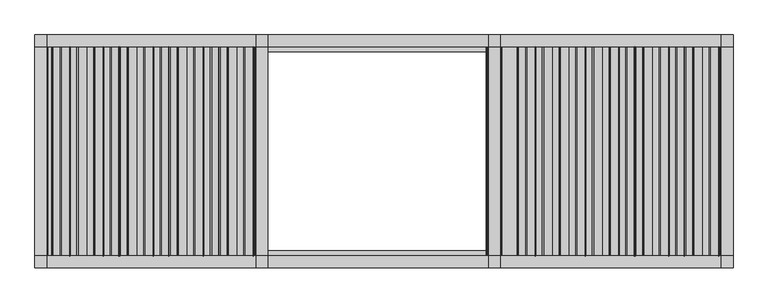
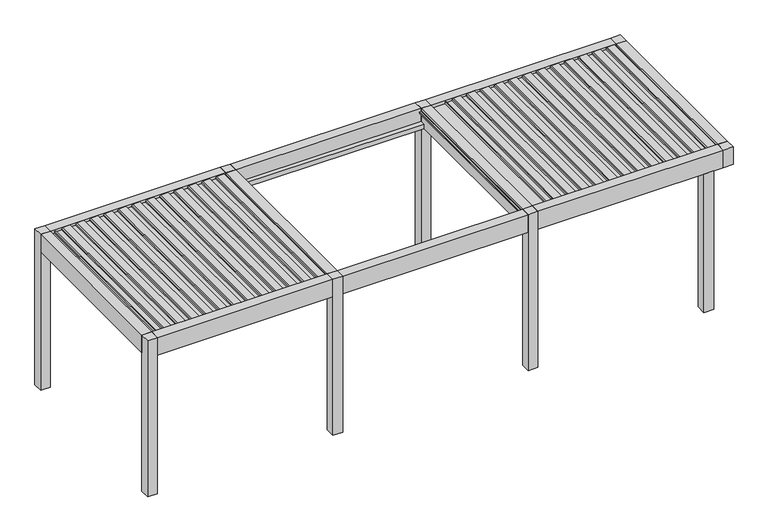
"""IFC4 building model written with IfcOpenShell, lengths in millimetres: proxy geometry, Renson_Amani_Patio_Cover : Renson_Amani_Patio_Cover."""

from ifc_helpers import new_model, si_unit, point, frame, frame_2d, origin, origin_with_axes, place, context, project, spatial, polyline, circle_curve, trimmed, segment, composite_curve, outline, extrude, source, transform, mapped, element, save


def generic_models_a3af7587(model_context):
    return source(origin(), model_context, "Body", "SweptSolid", [
        extrude(outline(composite_curve([segment(polyline([(2483.35, 7073.7289238), (2511.01198, 7076.1490335), (2512.3970364, 7104.984284), (2531.8911096, 7101.5469529), (2526.6075693, 6991.549838)]), True, "CONTINUOUS"), segment(trimmed(circle_curve(frame_2d((2511.6248435, 6992.26951)), 15.0), [point((2526.6075693, 6991.549838))], [point((2514.2295662, 6977.4973937))], False, "CARTESIAN"), True, "CONTINUOUS"), segment(polyline([(2514.2295662, 6977.4973937), (2495.0, 6974.1067023), (2495.0, 6886.3709263), (2512.0788237, 6883.3594689), (2511.3450182, 6868.0824984), (2483.35, 6865.6332517), (2483.35, 7073.7289238)]), True, "CONTINUOUS")], self_intersect=False)), frame((0.0, -1350.0, 0.0), z_axis=(0.0, 1.0, 0.0), x_axis=(0.0, 0.0, 1.0)), (0.0, 0.0, 1.0), 2700.0),
        extrude(outline(composite_curve([segment(polyline([(2483.35, 6858.7132078), (2511.01198, 6861.1333174), (2512.3970364, 6889.9685679), (2531.8911096, 6886.5312368), (2526.6075693, 6776.534122)]), True, "CONTINUOUS"), segment(trimmed(circle_curve(frame_2d((2511.6248435, 6777.2537939)), 15.0), [point((2526.6075693, 6776.534122))], [point((2514.2295662, 6762.4816776))], False, "CARTESIAN"), True, "CONTINUOUS"), segment(polyline([(2514.2295662, 6762.4816776), (2495.0, 6759.0909863), (2495.0, 6671.3552102), (2512.0788237, 6668.3437528), (2511.3450182, 6653.0667824), (2483.35, 6650.6175356), (2483.35, 6858.7132078)]), True, "CONTINUOUS")], self_intersect=False)), frame((0.0, -1350.0, 0.0), z_axis=(0.0, 1.0, 0.0), x_axis=(0.0, 0.0, 1.0)), (0.0, 0.0, 1.0), 2700.0),
        extrude(outline(composite_curve([segment(polyline([(2483.35, 6643.6974917), (2511.01198, 6646.1176014), (2512.3970364, 6674.9528519), (2531.8911096, 6671.5155208), (2526.6075693, 6561.5184059)]), True, "CONTINUOUS"), segment(trimmed(circle_curve(frame_2d((2511.6248435, 6562.2380779)), 15.0), [point((2526.6075693, 6561.5184059))], [point((2514.2295662, 6547.4659616))], False, "CARTESIAN"), True, "CONTINUOUS"), segment(polyline([(2514.2295662, 6547.4659616), (2495.0, 6544.0752702), (2495.0, 6456.3394942), (2512.0788237, 6453.3280368), (2511.3450182, 6438.0510663), (2483.35, 6435.6018196), (2483.35, 6643.6974917)]), True, "CONTINUOUS")], self_intersect=False)), frame((0.0, -1350.0, 0.0), z_axis=(0.0, 1.0, 0.0), x_axis=(0.0, 0.0, 1.0)), (0.0, 0.0, 1.0), 2700.0),
        extrude(outline(composite_curve([segment(polyline([(2483.35, 6428.6817757), (2511.01198, 6431.1018854), (2512.3970364, 6459.9371358), (2531.8911096, 6456.4998047), (2526.6075693, 6346.5026899)]), True, "CONTINUOUS"), segment(trimmed(circle_curve(frame_2d((2511.6248435, 6347.2223618)), 15.0), [point((2526.6075693, 6346.5026899))], [point((2514.2295662, 6332.4502455))], False, "CARTESIAN"), True, "CONTINUOUS"), segment(polyline([(2514.2295662, 6332.4502455), (2495.0, 6329.0595542), (2495.0, 6241.3237782), (2512.0788237, 6238.3123207), (2511.3450182, 6223.0353503), (2483.35, 6220.5861035), (2483.35, 6428.6817757)]), True, "CONTINUOUS")], self_intersect=False)), frame((0.0, -1350.0, 0.0), z_axis=(0.0, 1.0, 0.0), x_axis=(0.0, 0.0, 1.0)), (0.0, 0.0, 1.0), 2700.0),
        extrude(outline(composite_curve([segment(polyline([(2483.35, 6213.6660597), (2511.01198, 6216.0861693), (2512.3970364, 6244.9214198), (2531.8911096, 6241.4840887), (2526.6075693, 6131.4869738)]), True, "CONTINUOUS"), segment(trimmed(circle_curve(frame_2d((2511.6248435, 6132.2066458)), 15.0), [point((2526.6075693, 6131.4869738))], [point((2514.2295662, 6117.4345295))], False, "CARTESIAN"), True, "CONTINUOUS"), segment(polyline([(2514.2295662, 6117.4345295), (2495.0, 6114.0438381), (2495.0, 6026.3080621), (2512.0788237, 6023.2966047), (2511.3450182, 6008.0196342), (2483.35, 6005.5703875), (2483.35, 6213.6660597)]), True, "CONTINUOUS")], self_intersect=False)), frame((0.0, -1350.0, 0.0), z_axis=(0.0, 1.0, 0.0), x_axis=(0.0, 0.0, 1.0)), (0.0, 0.0, 1.0), 2700.0),
        extrude(outline(composite_curve([segment(polyline([(2483.35, 5998.6503436), (2511.01198, 6001.0704533), (2512.3970364, 6029.9057037), (2531.8911096, 6026.4683726), (2526.6075693, 5916.4712578)]), True, "CONTINUOUS"), segment(trimmed(circle_curve(frame_2d((2511.6248435, 5917.1909297)), 15.0), [point((2526.6075693, 5916.4712578))], [point((2514.2295662, 5902.4188134))], False, "CARTESIAN"), True, "CONTINUOUS"), segment(polyline([(2514.2295662, 5902.4188134), (2495.0, 5899.0281221), (2495.0, 5811.2923461), (2512.0788237, 5808.2808886), (2511.3450182, 5793.0039182), (2483.35, 5790.5546714), (2483.35, 5998.6503436)]), True, "CONTINUOUS")], self_intersect=False)), frame((0.0, -1350.0, 0.0), z_axis=(0.0, 1.0, 0.0), x_axis=(0.0, 0.0, 1.0)), (0.0, 0.0, 1.0), 2700.0),
        extrude(outline(composite_curve([segment(polyline([(2483.35, 5783.6346276), (2511.01198, 5786.0547372), (2512.3970364, 5814.8899877), (2531.8911096, 5811.4526566), (2526.6075693, 5701.4555418)]), True, "CONTINUOUS"), segment(trimmed(circle_curve(frame_2d((2511.6248435, 5702.1752137)), 15.0), [point((2526.6075693, 5701.4555418))], [point((2514.2295662, 5687.4030974))], False, "CARTESIAN"), True, "CONTINUOUS"), segment(polyline([(2514.2295662, 5687.4030974), (2495.0, 5684.012406), (2495.0, 5596.27663), (2512.0788237, 5593.2651726), (2511.3450182, 5577.9882021), (2483.35, 5575.5389554), (2483.35, 5783.6346276)]), True, "CONTINUOUS")], self_intersect=False)), frame((0.0, -1350.0, 0.0), z_axis=(0.0, 1.0, 0.0), x_axis=(0.0, 0.0, 1.0)), (0.0, 0.0, 1.0), 2700.0),
        extrude(outline(composite_curve([segment(polyline([(2483.35, 5568.6189115), (2511.01198, 5571.0390212), (2512.3970364, 5599.8742716), (2531.8911096, 5596.4369406), (2526.6075693, 5486.4398257)]), True, "CONTINUOUS"), segment(trimmed(circle_curve(frame_2d((2511.6248435, 5487.1594976)), 15.0), [point((2526.6075693, 5486.4398257))], [point((2514.2295662, 5472.3873813))], False, "CARTESIAN"), True, "CONTINUOUS"), segment(polyline([(2514.2295662, 5472.3873813), (2495.0, 5468.99669), (2495.0, 5381.260914), (2512.0788237, 5378.2494566), (2511.3450182, 5362.9724861), (2483.35, 5360.5232394), (2483.35, 5568.6189115)]), True, "CONTINUOUS")], self_intersect=False)), frame((0.0, -1350.0, 0.0), z_axis=(0.0, 1.0, 0.0), x_axis=(0.0, 0.0, 1.0)), (0.0, 0.0, 1.0), 2700.0),
        extrude(outline(composite_curve([segment(polyline([(2483.35, 5353.6031955), (2511.01198, 5356.0233051), (2512.3970364, 5384.8585556), (2531.8911096, 5381.4212245), (2526.6075693, 5271.4241097)]), True, "CONTINUOUS"), segment(trimmed(circle_curve(frame_2d((2511.6248435, 5272.1437816)), 15.0), [point((2526.6075693, 5271.4241097))], [point((2514.2295662, 5257.3716653))], False, "CARTESIAN"), True, "CONTINUOUS"), segment(polyline([(2514.2295662, 5257.3716653), (2495.0, 5253.980974), (2495.0, 5166.2451979), (2512.0788237, 5163.2337405), (2511.3450182, 5147.95677), (2483.35, 5145.5075233), (2483.35, 5353.6031955)]), True, "CONTINUOUS")], self_intersect=False)), frame((0.0, -1350.0, 0.0), z_axis=(0.0, 1.0, 0.0), x_axis=(0.0, 0.0, 1.0)), (0.0, 0.0, 1.0), 2700.0),
        extrude(outline(composite_curve([segment(polyline([(2483.35, 5138.5874794), (2511.01198, 5141.0075891), (2512.3970364, 5169.8428395), (2531.8911096, 5166.4055085), (2526.6075693, 5056.4083936)]), True, "CONTINUOUS"), segment(trimmed(circle_curve(frame_2d((2511.6248435, 5057.1280655)), 15.0), [point((2526.6075693, 5056.4083936))], [point((2514.2295662, 5042.3559492))], False, "CARTESIAN"), True, "CONTINUOUS"), segment(polyline([(2514.2295662, 5042.3559492), (2495.0, 5038.9652579), (2495.0, 4951.2294819), (2512.0788237, 4948.2180245), (2511.3450182, 4932.941054), (2483.35, 4930.4918073), (2483.35, 5138.5874794)]), True, "CONTINUOUS")], self_intersect=False)), frame((0.0, -1350.0, 0.0), z_axis=(0.0, 1.0, 0.0), x_axis=(0.0, 0.0, 1.0)), (0.0, 0.0, 1.0), 2700.0),
        extrude(outline(composite_curve([segment(polyline([(2483.35, 7288.7446399), (2511.01198, 7291.1647495), (2512.3970364, 7320.0), (2531.8911096, 7316.5626689), (2526.6075693, 7206.5655541)]), True, "CONTINUOUS"), segment(trimmed(circle_curve(frame_2d((2511.6248435, 7207.285226)), 15.0), [point((2526.6075693, 7206.5655541))], [point((2514.2295662, 7192.5131097))], False, "CARTESIAN"), True, "CONTINUOUS"), segment(polyline([(2514.2295662, 7192.5131097), (2495.0, 7189.1224184), (2495.0, 7101.3866423), (2512.0788237, 7098.3751849), (2511.3450182, 7083.0982144), (2483.35, 7080.6489677), (2483.35, 7288.7446399)]), True, "CONTINUOUS")], self_intersect=False)), frame((0.0, -1350.0, 0.0), z_axis=(0.0, 1.0, 0.0), x_axis=(0.0, 0.0, 1.0)), (0.0, 0.0, 1.0), 2700.0),
        extrude(outline(composite_curve([segment(polyline([(2483.35, 4923.5717634), (2511.01198, 4925.991873), (2512.3970364, 4954.8271235), (2531.8911096, 4951.3897924), (2526.6075693, 4841.3926776)]), True, "CONTINUOUS"), segment(trimmed(circle_curve(frame_2d((2511.6248435, 4842.1123495)), 15.0), [point((2526.6075693, 4841.3926776))], [point((2514.2295662, 4827.3402332))], False, "CARTESIAN"), True, "CONTINUOUS"), segment(polyline([(2514.2295662, 4827.3402332), (2495.0, 4823.9495419), (2495.0, 4736.2137658), (2512.0788237, 4733.2023084), (2511.3450182, 4717.9253379), (2483.35, 4715.4760912), (2483.35, 4923.5717634)]), True, "CONTINUOUS")], self_intersect=False)), frame((0.0, -1350.0, 0.0), z_axis=(0.0, 1.0, 0.0), x_axis=(0.0, 0.0, 1.0)), (0.0, 0.0, 1.0), 2700.0),
        extrude(outline(composite_curve([segment(polyline([(2483.35, 1073.7289238), (2511.01198, 1076.1490335), (2512.3970364, 1104.984284), (2531.8911096, 1101.5469529), (2526.6075693, 991.549838)]), True, "CONTINUOUS"), segment(trimmed(circle_curve(frame_2d((2511.6248435, 992.26951)), 15.0), [point((2526.6075693, 991.549838))], [point((2514.2295662, 977.4973937))], False, "CARTESIAN"), True, "CONTINUOUS"), segment(polyline([(2514.2295662, 977.4973937), (2495.0, 974.1067023), (2495.0, 886.3709263), (2512.0788237, 883.3594689), (2511.3450182, 868.0824984), (2483.35, 865.6332517), (2483.35, 1073.7289238)]), True, "CONTINUOUS")], self_intersect=False)), frame((0.0, -1350.0, 0.0), z_axis=(0.0, 1.0, 0.0), x_axis=(0.0, 0.0, 1.0)), (0.0, 0.0, 1.0), 2700.0),
        extrude(outline(composite_curve([segment(polyline([(2483.35, 858.7132078), (2511.01198, 861.1333174), (2512.3970364, 889.9685679), (2531.8911096, 886.5312368), (2526.6075693, 776.534122)]), True, "CONTINUOUS"), segment(trimmed(circle_curve(frame_2d((2511.6248435, 777.2537939)), 15.0), [point((2526.6075693, 776.534122))], [point((2514.2295662, 762.4816776))], False, "CARTESIAN"), True, "CONTINUOUS"), segment(polyline([(2514.2295662, 762.4816776), (2495.0, 759.0909863), (2495.0, 671.3552102), (2512.0788237, 668.3437528), (2511.3450182, 653.0667824), (2483.35, 650.6175356), (2483.35, 858.7132078)]), True, "CONTINUOUS")], self_intersect=False)), frame((0.0, -1350.0, 0.0), z_axis=(0.0, 1.0, 0.0), x_axis=(0.0, 0.0, 1.0)), (0.0, 0.0, 1.0), 2700.0),
        extrude(outline(composite_curve([segment(polyline([(2483.35, 643.6974917), (2511.01198, 646.1176014), (2512.3970364, 674.9528519), (2531.8911096, 671.5155208), (2526.6075693, 561.5184059)]), True, "CONTINUOUS"), segment(trimmed(circle_curve(frame_2d((2511.6248435, 562.2380779)), 15.0), [point((2526.6075693, 561.5184059))], [point((2514.2295662, 547.4659616))], False, "CARTESIAN"), True, "CONTINUOUS"), segment(polyline([(2514.2295662, 547.4659616), (2495.0, 544.0752702), (2495.0, 456.3394942), (2512.0788237, 453.3280368), (2511.3450182, 438.0510663), (2483.35, 435.6018196), (2483.35, 643.6974917)]), True, "CONTINUOUS")], self_intersect=False)), frame((0.0, -1350.0, 0.0), z_axis=(0.0, 1.0, 0.0), x_axis=(0.0, 0.0, 1.0)), (0.0, 0.0, 1.0), 2700.0),
        extrude(outline(composite_curve([segment(polyline([(2483.35, 428.6817757), (2511.01198, 431.1018854), (2512.3970364, 459.9371358), (2531.8911096, 456.4998047), (2526.6075693, 346.5026899)]), True, "CONTINUOUS"), segment(trimmed(circle_curve(frame_2d((2511.6248435, 347.2223618)), 15.0), [point((2526.6075693, 346.5026899))], [point((2514.2295662, 332.4502455))], False, "CARTESIAN"), True, "CONTINUOUS"), segment(polyline([(2514.2295662, 332.4502455), (2495.0, 329.0595542), (2495.0, 241.3237782), (2512.0788237, 238.3123207), (2511.3450182, 223.0353503), (2483.35, 220.5861035), (2483.35, 428.6817757)]), True, "CONTINUOUS")], self_intersect=False)), frame((0.0, -1350.0, 0.0), z_axis=(0.0, 1.0, 0.0), x_axis=(0.0, 0.0, 1.0)), (0.0, 0.0, 1.0), 2700.0),
        extrude(outline(composite_curve([segment(polyline([(2483.35, 213.6660597), (2511.01198, 216.0861693), (2512.3970364, 244.9214198), (2531.8911096, 241.4840887), (2526.6075693, 131.4869738)]), True, "CONTINUOUS"), segment(trimmed(circle_curve(frame_2d((2511.6248435, 132.2066458)), 15.0), [point((2526.6075693, 131.4869738))], [point((2514.2295662, 117.4345295))], False, "CARTESIAN"), True, "CONTINUOUS"), segment(polyline([(2514.2295662, 117.4345295), (2495.0, 114.0438381), (2495.0, 26.3080621), (2512.0788237, 23.2966047), (2511.3450182, 8.0196342), (2483.35, 5.5703875), (2483.35, 213.6660597)]), True, "CONTINUOUS")], self_intersect=False)), frame((0.0, -1350.0, 0.0), z_axis=(0.0, 1.0, 0.0), x_axis=(0.0, 0.0, 1.0)), (0.0, 0.0, 1.0), 2700.0),
        extrude(outline(composite_curve([segment(polyline([(2483.35, -1.3496564), (2511.01198, 1.0704533), (2512.3970364, 29.9057037), (2531.8911096, 26.4683726), (2526.6075693, -83.5287422)]), True, "CONTINUOUS"), segment(trimmed(circle_curve(frame_2d((2511.6248435, -82.8090703)), 15.0), [point((2526.6075693, -83.5287422))], [point((2514.2295662, -97.5811866))], False, "CARTESIAN"), True, "CONTINUOUS"), segment(polyline([(2514.2295662, -97.5811866), (2495.0, -100.9718779), (2495.0, -188.7076539), (2512.0788237, -191.7191114), (2511.3450182, -206.9960818), (2483.35, -209.4453286), (2483.35, -1.3496564)]), True, "CONTINUOUS")], self_intersect=False)), frame((0.0, -1350.0, 0.0), z_axis=(0.0, 1.0, 0.0), x_axis=(0.0, 0.0, 1.0)), (0.0, 0.0, 1.0), 2700.0),
        extrude(outline(composite_curve([segment(polyline([(2483.35, -216.3653724), (2511.01198, -213.9452628), (2512.3970364, -185.1100123), (2531.8911096, -188.5473434), (2526.6075693, -298.5444582)]), True, "CONTINUOUS"), segment(trimmed(circle_curve(frame_2d((2511.6248435, -297.8247863)), 15.0), [point((2526.6075693, -298.5444582))], [point((2514.2295662, -312.5969026))], False, "CARTESIAN"), True, "CONTINUOUS"), segment(polyline([(2514.2295662, -312.5969026), (2495.0, -315.987594), (2495.0, -403.72337), (2512.0788237, -406.7348274), (2511.3450182, -422.0117979), (2483.35, -424.4610446), (2483.35, -216.3653724)]), True, "CONTINUOUS")], self_intersect=False)), frame((0.0, -1350.0, 0.0), z_axis=(0.0, 1.0, 0.0), x_axis=(0.0, 0.0, 1.0)), (0.0, 0.0, 1.0), 2700.0),
        extrude(outline(composite_curve([segment(polyline([(2483.35, -431.3810885), (2511.01198, -428.9609788), (2512.3970364, -400.1257284), (2531.8911096, -403.5630594), (2526.6075693, -513.5601743)]), True, "CONTINUOUS"), segment(trimmed(circle_curve(frame_2d((2511.6248435, -512.8405024)), 15.0), [point((2526.6075693, -513.5601743))], [point((2514.2295662, -527.6126187))], False, "CARTESIAN"), True, "CONTINUOUS"), segment(polyline([(2514.2295662, -527.6126187), (2495.0, -531.00331), (2495.0, -618.739086), (2512.0788237, -621.7505434), (2511.3450182, -637.0275139), (2483.35, -639.4767606), (2483.35, -431.3810885)]), True, "CONTINUOUS")], self_intersect=False)), frame((0.0, -1350.0, 0.0), z_axis=(0.0, 1.0, 0.0), x_axis=(0.0, 0.0, 1.0)), (0.0, 0.0, 1.0), 2700.0),
        extrude(outline(composite_curve([segment(polyline([(2483.35, -646.3968045), (2511.01198, -643.9766949), (2512.3970364, -615.1414444), (2531.8911096, -618.5787755), (2526.6075693, -728.5758903)]), True, "CONTINUOUS"), segment(trimmed(circle_curve(frame_2d((2511.6248435, -727.8562184)), 15.0), [point((2526.6075693, -728.5758903))], [point((2514.2295662, -742.6283347))], False, "CARTESIAN"), True, "CONTINUOUS"), segment(polyline([(2514.2295662, -742.6283347), (2495.0, -746.019026), (2495.0, -833.7548021), (2512.0788237, -836.7662595), (2511.3450182, -852.04323), (2483.35, -854.4924767), (2483.35, -646.3968045)]), True, "CONTINUOUS")], self_intersect=False)), frame((0.0, -1350.0, 0.0), z_axis=(0.0, 1.0, 0.0), x_axis=(0.0, 0.0, 1.0)), (0.0, 0.0, 1.0), 2700.0),
        extrude(outline(composite_curve([segment(polyline([(2483.35, -861.4125206), (2511.01198, -858.9924109), (2512.3970364, -830.1571605), (2531.8911096, -833.5944915), (2526.6075693, -943.5916064)]), True, "CONTINUOUS"), segment(trimmed(circle_curve(frame_2d((2511.6248435, -942.8719345)), 15.0), [point((2526.6075693, -943.5916064))], [point((2514.2295662, -957.6440508))], False, "CARTESIAN"), True, "CONTINUOUS"), segment(polyline([(2514.2295662, -957.6440508), (2495.0, -961.0347421), (2495.0, -1048.7705181), (2512.0788237, -1051.7819755), (2511.3450182, -1067.058946), (2483.35, -1069.5081927), (2483.35, -861.4125206)]), True, "CONTINUOUS")], self_intersect=False)), frame((0.0, -1350.0, 0.0), z_axis=(0.0, 1.0, 0.0), x_axis=(0.0, 0.0, 1.0)), (0.0, 0.0, 1.0), 2700.0),
        extrude(outline(composite_curve([segment(polyline([(2483.35, 1288.7446399), (2511.01198, 1291.1647495), (2512.3970364, 1320.0), (2531.8911096, 1316.5626689), (2526.6075693, 1206.5655541)]), True, "CONTINUOUS"), segment(trimmed(circle_curve(frame_2d((2511.6248435, 1207.285226)), 15.0), [point((2526.6075693, 1206.5655541))], [point((2514.2295662, 1192.5131097))], False, "CARTESIAN"), True, "CONTINUOUS"), segment(polyline([(2514.2295662, 1192.5131097), (2495.0, 1189.1224184), (2495.0, 1101.3866423), (2512.0788237, 1098.3751849), (2511.3450182, 1083.0982144), (2483.35, 1080.6489677), (2483.35, 1288.7446399)]), True, "CONTINUOUS")], self_intersect=False)), frame((0.0, -1350.0, 0.0), z_axis=(0.0, 1.0, 0.0), x_axis=(0.0, 0.0, 1.0)), (0.0, 0.0, 1.0), 2700.0),
        extrude(outline(composite_curve([segment(polyline([(2483.35, -1076.4282366), (2511.01198, -1074.008127), (2512.3970364, -1045.1728765), (2531.8911096, -1048.6102076), (2526.6075693, -1158.6073224)]), True, "CONTINUOUS"), segment(trimmed(circle_curve(frame_2d((2511.6248435, -1157.8876505)), 15.0), [point((2526.6075693, -1158.6073224))], [point((2514.2295662, -1172.6597668))], False, "CARTESIAN"), True, "CONTINUOUS"), segment(polyline([(2514.2295662, -1172.6597668), (2495.0, -1176.0504581), (2495.0, -1263.7862342), (2512.0788237, -1266.7976916), (2511.3450182, -1282.0746621), (2483.35, -1284.5239088), (2483.35, -1076.4282366)]), True, "CONTINUOUS")], self_intersect=False)), frame((0.0, -1350.0, 0.0), z_axis=(0.0, 1.0, 0.0), x_axis=(0.0, 0.0, 1.0)), (0.0, 0.0, 1.0), 2700.0),
        extrude(outline(polyline([(7200.0, -1350.0), (7200.0, -1500.0), (7050.0, -1500.0), (7050.0, -1350.0), (7200.0, -1350.0)])), origin_with_axes(), (0.0, 0.0, 1.0), 2250.0),
        extrude(outline(polyline([(7500.0, 1500.0), (7500.0, 1350.0), (7350.0, 1350.0), (7350.0, 1500.0), (7500.0, 1500.0)])), origin_with_axes(), (0.0, 0.0, 1.0), 2535.0),
        extrude(outline(polyline([(4500.0, 1500.0), (4500.0, 1350.0), (4350.0, 1350.0), (4350.0, 1500.0), (4500.0, 1500.0)])), origin_with_axes(), (0.0, 0.0, 1.0), 2535.0),
        extrude(outline(polyline([(7500.0, -1350.0), (7500.0, -1500.0), (7350.0, -1500.0), (7350.0, -1350.0), (7500.0, -1350.0)])), frame((0.0, 0.0, 2250.0), z_axis=(0.0, 0.0, 1.0), x_axis=(1.0, 0.0, 0.0)), (0.0, 0.0, 1.0), 285.0),
        extrude(outline(polyline([(4500.0, -1350.0), (4500.0, -1500.0), (4350.0, -1500.0), (4350.0, -1350.0), (4500.0, -1350.0)])), origin_with_axes(), (0.0, 0.0, 1.0), 2535.0),
        extrude(outline(polyline([(1500.0, -1350.0), (1500.0, -1500.0), (1350.0, -1500.0), (1350.0, -1350.0), (1500.0, -1350.0)])), origin_with_axes(), (0.0, 0.0, 1.0), 2535.0),
        extrude(outline(polyline([(1500.0, 1500.0), (1500.0, 1350.0), (1350.0, 1350.0), (1350.0, 1500.0), (1500.0, 1500.0)])), origin_with_axes(), (0.0, 0.0, 1.0), 2535.0),
        extrude(outline(polyline([(-1350.0, 1350.0), (-1500.0, 1350.0), (-1500.0, 1500.0), (-1350.0, 1500.0), (-1350.0, 1350.0)])), origin_with_axes(), (0.0, 0.0, 1.0), 2535.0),
        extrude(outline(polyline([(-1350.0, -1350.0), (-1350.0, -1500.0), (-1500.0, -1500.0), (-1500.0, -1350.0), (-1350.0, -1350.0)])), origin_with_axes(), (0.0, 0.0, 1.0), 2535.0),
        extrude(outline(polyline([(2466.6559373, 4500.0), (2466.6559373, 4710.0), (2480.6555802, 4713.7512887), (2480.6555802, 4520.4059055), (2496.400763, 4505.0), (2504.2449277, 4505.0), (2504.6823598, 4500.0), (2466.6559373, 4500.0)])), frame((0.0, -1350.0, 0.0), z_axis=(0.0, 1.0, 0.0), x_axis=(0.0, 0.0, 1.0)), (0.0, 0.0, 1.0), 2700.0),
        extrude(outline(polyline([(-1350.0, 2535.0), (-1350.0, 2322.0), (-1280.0000001, 2322.0), (-1280.0000001, 2250.0), (-1500.0, 2250.0), (-1500.0, 2535.0), (-1350.0, 2535.0)])), frame((4500.0, 0.0, 0.0), z_axis=(1.0, 0.0, 0.0), x_axis=(0.0, 1.0, 0.0)), (0.0, 0.0, 1.0), 2850.0),
        extrude(outline(polyline([(1500.0, 2250.0), (1280.0000001, 2250.0), (1280.0000001, 2322.0), (1350.0, 2322.0), (1350.0, 2535.0), (1500.0, 2535.0), (1500.0, 2250.0)])), frame((4500.0, 0.0, 0.0), z_axis=(1.0, 0.0, 0.0), x_axis=(0.0, 1.0, 0.0)), (0.0, 0.0, 1.0), 2850.0),
        extrude(outline(polyline([(2535.0, 7500.0), (2535.0, 7350.0), (2504.6823598, 7350.0), (2504.2449277, 7345.0), (2496.400763, 7345.0), (2480.6555802, 7329.2544156), (2480.6555802, 7319.9090324), (2466.6559373, 7323.6603211), (2466.6559373, 7350.0), (2250.0, 7350.0), (2250.0, 7500.0), (2535.0, 7500.0)])), frame((0.0, -1350.0, 0.0), z_axis=(0.0, 1.0, 0.0), x_axis=(0.0, 0.0, 1.0)), (0.0, 0.0, 1.0), 2700.0),
        extrude(outline(polyline([(-1350.0, 2535.0), (-1350.0, 2322.0), (-1280.0000001, 2322.0), (-1280.0000001, 2250.0), (-1500.0, 2250.0), (-1500.0, 2535.0), (-1350.0, 2535.0)])), frame((1500.0, 0.0, 0.0), z_axis=(1.0, 0.0, 0.0), x_axis=(0.0, 1.0, 0.0)), (0.0, 0.0, 1.0), 2850.0),
        extrude(outline(polyline([(1500.0, 2250.0), (1280.0000001, 2250.0), (1280.0000001, 2322.0), (1350.0, 2322.0), (1350.0, 2535.0), (1500.0, 2535.0), (1500.0, 2250.0)])), frame((1500.0, 0.0, 0.0), z_axis=(1.0, 0.0, 0.0), x_axis=(0.0, 1.0, 0.0)), (0.0, 0.0, 1.0), 2850.0),
        extrude(outline(polyline([(2535.0, 4500.0), (2535.0, 4350.0), (2504.6823598, 4350.0), (2504.2449277, 4345.0), (2496.400763, 4345.0), (2480.6555802, 4329.2544156), (2480.6555802, 4319.9090324), (2466.6559373, 4323.6603211), (2466.6559373, 4350.0), (2250.0, 4350.0), (2250.0, 4500.0), (2535.0, 4500.0)])), frame((0.0, -1350.0, 0.0), z_axis=(0.0, 1.0, 0.0), x_axis=(0.0, 0.0, 1.0)), (0.0, 0.0, 1.0), 2700.0),
        extrude(outline(polyline([(2466.6559373, -1350.0), (2466.6559373, -1290.0), (2480.6555802, -1286.2487113), (2480.6555802, -1329.5940945), (2496.400763, -1345.0), (2504.2449277, -1345.0), (2504.6823598, -1350.0), (2466.6559373, -1350.0)])), frame((0.0, -1350.0, 0.0), z_axis=(0.0, 1.0, 0.0), x_axis=(0.0, 0.0, 1.0)), (0.0, 0.0, 1.0), 2700.0),
        extrude(outline(polyline([(-1350.0, -1350.0), (-1500.0, -1350.0), (-1500.0, 1350.0), (-1350.0, 1350.0), (-1350.0, -1350.0)])), frame((0.0, 0.0, 2250.0), z_axis=(0.0, 0.0, 1.0), x_axis=(1.0, 0.0, 0.0)), (0.0, 0.0, 1.0), 285.0),
        extrude(outline(polyline([(2535.0, 1500.0), (2535.0, 1350.0), (2504.6904658, 1350.0), (2504.2449277, 1345.0), (2496.400763, 1345.0), (2480.6555802, 1329.2544156), (2480.6555802, 1319.9090324), (2466.6559373, 1323.6603211), (2466.6559373, 1350.0), (2250.0, 1350.0), (2250.0, 1500.0), (2535.0, 1500.0)])), frame((0.0, -1350.0, 0.0), z_axis=(0.0, 1.0, 0.0), x_axis=(0.0, 0.0, 1.0)), (0.0, 0.0, 1.0), 2700.0),
        extrude(outline(polyline([(-1350.0, 2535.0), (-1350.0, 2322.0), (-1280.0000001, 2322.0), (-1280.0000001, 2250.0), (-1500.0, 2250.0), (-1500.0, 2535.0), (-1350.0, 2535.0)])), frame((-1350.0, 0.0, 0.0), z_axis=(1.0, 0.0, 0.0), x_axis=(0.0, 1.0, 0.0)), (0.0, 0.0, 1.0), 2700.0),
        extrude(outline(polyline([(1500.0, 2250.0), (1280.0000001, 2250.0), (1280.0000001, 2322.0), (1350.0, 2322.0), (1350.0, 2535.0), (1500.0, 2535.0), (1500.0, 2250.0)])), frame((-1350.0, 0.0, 0.0), z_axis=(1.0, 0.0, 0.0), x_axis=(0.0, 1.0, 0.0)), (0.0, 0.0, 1.0), 2700.0),
    ])


if __name__ == "__main__":
    model = new_model("IFC4")
    model_context = context("Model", 3, world=origin())
    ifc_project = project(units=[si_unit("LENGTHUNIT", "METRE", prefix="MILLI")], contexts=[model_context])
    site = spatial("IfcSite", under=ifc_project)
    building = spatial("IfcBuilding", under=site)
    placement = place(None, origin())
    generic_models_shape = generic_models_a3af7587(model_context)
    element("IfcBuildingElementProxy", 1, Name="Renson_Amani_Patio_Cover : Renson_Amani_Patio_Cover", ObjectType="Renson_Amani_Patio_Cover : Renson_Amani_Patio_Cover", at=placement, inside=building, context=model_context, shape_type="MappedRepresentation", body=[
        mapped(generic_models_shape, transform((0.0, 0.0, 0.0), x_axis=(1.0, 0.0, 0.0), y_axis=(0.0, 1.0, 0.0), z_axis=(0.0, 0.0, 1.0))),
    ])
    save(model, "model.ifc")
